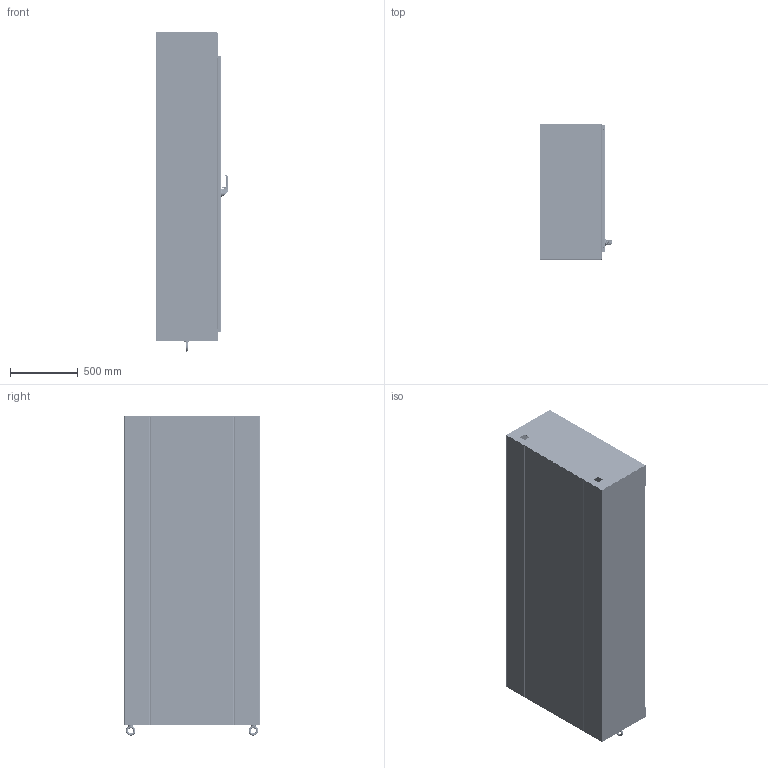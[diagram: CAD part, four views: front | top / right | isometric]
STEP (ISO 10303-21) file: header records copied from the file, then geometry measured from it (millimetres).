
FILE_DESCRIPTION((''),'2;1');
FILE_NAME('MODEL-436_ASM','2025-04-02T10:24:09',('joshi'),('SAGINAW CONTROL & ENGINEERING'),'CREO PARAMETRIC BY PTC INC, 2021284','CREO PARAMETRIC BY PTC INC, 2021284','');
FILE_SCHEMA(('AUTOMOTIVE_DESIGN { 1 0 10303 214 1 1 1 1 }'));
Length unit declared in the file: inch
Products named in the file (63): MODEL-436-L-SD; MODEL-436-TP; MODEL-436-R-SD; MODEL-436-BTM; MODEL-436-DR; 100837; 111267; 100882; 100953_SCREW_MTG; 100953_PADLOCK_CATCH; 100953_SCREW_LARGE; 100953_INSERT_SHAFT; 100953_INSERT_PCH; 100953_GASKET; 100953_O-RING; 100953_BASE; 100953_SPRING; 100953_HANDLE; 100953_CAM_SHAFT; 100953_HANDLE_ASM; 100953_CAM_ADAPTER; 100953_EARTH_NUT; 100953_FLANGE_NUT; 100953_CAM_NUT; 100953_CP_INSERT; 100953_SPRING_CAM; 100953_TORSION_SPRING; 100953_SCREW_INSERT; 100953_ASM; 102237; 100030; 102237_ASM; MODEL-436-ROD-UPR; 128146; 128145; 128144; 102482; MODEL-436-ROD-UPR_ASM; 128143; 112504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
Assembly tree (128 placements, depth 5):
  MODEL-436_ASM
    MODEL-436-L-SD
    MODEL-436-TP
    MODEL-436-R-SD
    MODEL-436-BTM
    MODEL-436-DOOR-ASSY_ASM
      MODEL-436-DR
      100837  x7
      111267
      100882  x12
      100953_ASM
        100953_SCREW_MTG
        100953_PADLOCK_CATCH
        100953_SCREW_LARGE  x2
        100953_INSERT_SHAFT
        100953_INSERT_PCH
        100953_GASKET
        100953_O-RING
        100953_BASE
        100953_SPRING
        100953_HANDLE_ASM
          100953_HANDLE
          100953_CAM_SHAFT
        100953_CAM_ADAPTER
        100953_EARTH_NUT
        100953_FLANGE_NUT
        100953_CAM_NUT
        100953_CP_INSERT
        100953_SPRING_CAM
        100953_TORSION_SPRING
        100953_SCREW_INSERT
      102237_ASM
        102237
        100030  x2
      MODEL-436-ROD-UPR_ASM
        MODEL-436-ROD-UPR
        128146
        128145
        128144
        102482  x2
      128143  x2
      112504  x2
      MODEL-436-ROD-LWR_ASM
        MODEL-436-ROD-LWR
        128146
        128145
        128144
        102482  x2
      MODEL-436-PR-GSKT
      128257_ASM  x4
        128257
      126393  x4
      102483  x4
      101369_ASM  x4
        101369
        101369-STUD
      101221  x4
    MODEL-436-BCK
    100837  x4
    103357
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Bounding box: 535.27 x 1003.3 x 2365.04 mm (x, y, z)
Volume: 28383002.3 mm3; surface area: 20472799.7 mm2
Topology: 133 solids, 133 shells, 12560 faces, 31874 edges, 19646 vertices
Faces by surface type: plane 4232, cylinder 3318, bspline 3010, torus 940, cone 700, sphere 330, extrusion 30
Entity records: 363960 total; most frequent: CARTESIAN_POINT 150265, ORIENTED_EDGE 33290, DIRECTION 30272, PRESENTATION_STYLE_ASSIGNMENT 16678, STYLED_ITEM 16673, EDGE_CURVE 16645, CURVE_STYLE 16597, AXIS2_PLACEMENT_3D 11380
